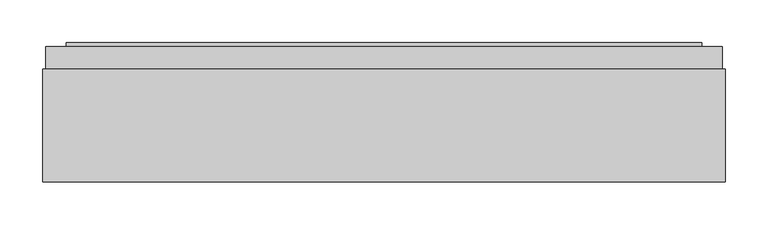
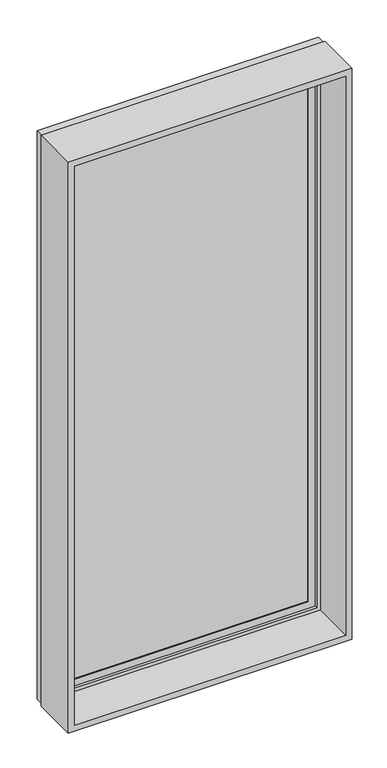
"""IFC4 building model written with IfcOpenShell, lengths in millimetres: plate geometry, SCISSOR PANEL : SCISSOR PANEL."""

from ifc_helpers import new_model, si_unit, frame, origin, place, context, project, spatial, polyline, outline, extrude, faceted_brep, source, transform, mapped, element, save


def plate_8726400f(model_context):
    return source(origin(), model_context, "Body", "SolidModel", [
        extrude(outline(polyline([(1700.0, -400.0), (0.0, -400.0), (0.0, 400.0), (1700.0, 400.0), (1700.0, -400.0)]), holes=[polyline([(17.5, -382.5), (1682.5, -382.5), (1682.5, 382.5), (17.5, 382.5), (17.5, -382.5)])]), frame((0.0, 0.0, 0.0), z_axis=(0.0, 1.0, 0.0), x_axis=(0.0, 0.0, 1.0)), (0.0, 0.0, 1.0), 132.5),
        extrude(outline(polyline([(-369.5, 160.5), (369.5, 160.5), (369.5, 135.5), (-369.5, 135.5), (-369.5, 160.5)])), frame((0.0, 0.0, 30.5), z_axis=(0.0, 0.0, 1.0), x_axis=(1.0, 0.0, 0.0)), (0.0, 0.0, 1.0), 1639.0),
        faceted_brep([(-352.5, 135.5, 1652.5), (-352.5, 132.5, 1652.5), (-352.5, 132.5, 47.5), (-352.5, 135.5, 47.5), (-369.5, 160.5, 1669.5), (-369.5, 135.5, 1669.5), (-369.5, 135.5, 30.5), (-369.5, 160.5, 30.5), (-352.5, 163.5, 1652.5), (-352.5, 160.5, 1652.5), (-352.5, 160.5, 47.5), (-352.5, 163.5, 47.5), (-372.5, 132.5, 1672.5), (-372.5, 163.5, 1672.5), (-372.5, 163.5, 27.5), (-372.5, 132.5, 27.5), (352.5, 132.5, 47.5), (352.5, 135.5, 47.5), (369.5, 135.5, 30.5), (369.5, 160.5, 30.5), (352.5, 160.5, 47.5), (352.5, 163.5, 47.5), (372.5, 163.5, 27.5), (372.5, 132.5, 27.5), (352.5, 132.5, 1652.5), (352.5, 135.5, 1652.5), (369.5, 135.5, 1669.5), (369.5, 160.5, 1669.5), (352.5, 160.5, 1652.5), (352.5, 163.5, 1652.5), (372.5, 163.5, 1672.5), (372.5, 132.5, 1672.5)], [[[0, 1, 2, 3]], [[4, 5, 6, 7]], [[8, 9, 10, 11]], [[12, 13, 14, 15]], [[3, 2, 16, 17]], [[7, 6, 18, 19]], [[11, 10, 20, 21]], [[15, 14, 22, 23]], [[17, 16, 24, 25]], [[19, 18, 26, 27]], [[21, 20, 28, 29]], [[23, 22, 30, 31]], [[15, 23, 31, 12], [1, 24, 16, 2]], [[25, 24, 1, 0]], [[5, 26, 18, 6], [3, 17, 25, 0]], [[27, 26, 5, 4]], [[7, 19, 27, 4], [9, 28, 20, 10]], [[29, 28, 9, 8]], [[13, 30, 22, 14], [11, 21, 29, 8]], [[31, 30, 13, 12]]]),
        faceted_brep([(-396.5, 132.5, 1696.5), (-396.5, 158.75, 1696.5), (-396.5, 158.75, 3.5), (-396.5, 132.5, 3.5), (-389.5, 150.0, 1689.5), (-389.5, 132.5, 1689.5), (-389.5, 132.5, 10.5), (-389.5, 150.0, 10.5), (-382.5, 123.75, 1682.5), (-382.5, 150.0, 1682.5), (-382.5, 150.0, 17.5), (-382.5, 123.75, 17.5), (-372.5, 158.75, 1672.5), (-372.5, 123.75, 1672.5), (-372.5, 123.75, 27.5), (-372.5, 158.75, 27.5), (396.5, 158.75, 3.5), (396.5, 132.5, 3.5), (389.5, 132.5, 10.5), (389.5, 150.0, 10.5), (382.5, 150.0, 17.5), (382.5, 123.75, 17.5), (372.5, 123.75, 27.5), (372.5, 158.75, 27.5), (396.5, 158.75, 1696.5), (396.5, 132.5, 1696.5), (389.5, 132.5, 1689.5), (389.5, 150.0, 1689.5), (382.5, 150.0, 1682.5), (382.5, 123.75, 1682.5), (372.5, 123.75, 1672.5), (372.5, 158.75, 1672.5)], [[[0, 1, 2, 3]], [[4, 5, 6, 7]], [[8, 9, 10, 11]], [[12, 13, 14, 15]], [[3, 2, 16, 17]], [[7, 6, 18, 19]], [[11, 10, 20, 21]], [[15, 14, 22, 23]], [[17, 16, 24, 25]], [[19, 18, 26, 27]], [[21, 20, 28, 29]], [[23, 22, 30, 31]], [[25, 24, 1, 0]], [[3, 17, 25, 0], [5, 26, 18, 6]], [[27, 26, 5, 4]], [[7, 19, 27, 4], [9, 28, 20, 10]], [[29, 28, 9, 8]], [[11, 21, 29, 8], [13, 30, 22, 14]], [[31, 30, 13, 12]], [[1, 24, 16, 2], [15, 23, 31, 12]]]),
        extrude(outline(polyline([(1689.5, -389.5), (10.5, -389.5), (10.5, 389.5), (1689.5, 389.5), (1689.5, -389.5)]), holes=[polyline([(1682.5, -382.5), (1682.5, 382.5), (17.5, 382.5), (17.5, -382.5), (1682.5, -382.5)])]), frame((0.0, 132.5, 0.0), z_axis=(0.0, 1.0, 0.0), x_axis=(0.0, 0.0, 1.0)), (0.0, 0.0, 1.0), 17.5),
    ])


if __name__ == "__main__":
    model = new_model("IFC4")
    model_context = context("Model", 3, world=origin())
    ifc_project = project(units=[si_unit("LENGTHUNIT", "METRE", prefix="MILLI")], contexts=[model_context])
    site = spatial("IfcSite", under=ifc_project)
    building = spatial("IfcBuilding", under=site)
    placement = place(None, origin())
    plate_shape = plate_8726400f(model_context)
    element("IfcPlate", 1, ObjectType="SCISSOR PANEL : SCISSOR PANEL", at=placement, inside=building, context=model_context, shape_type="MappedRepresentation", body=[
        mapped(plate_shape, transform((0.0, 0.0, 0.0), x_axis=(1.0, 0.0, 0.0), y_axis=(0.0, 1.0, 0.0), z_axis=(0.0, 0.0, 1.0))),
    ])
    save(model, "model.ifc")
